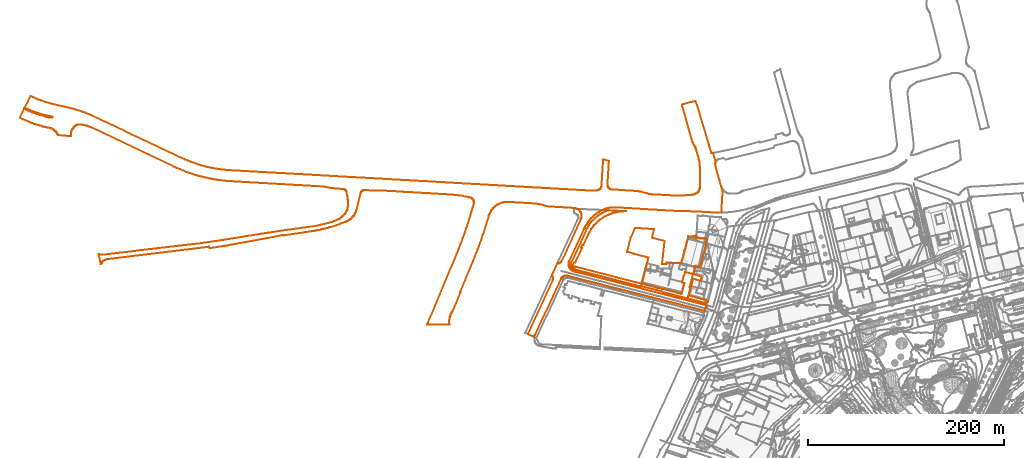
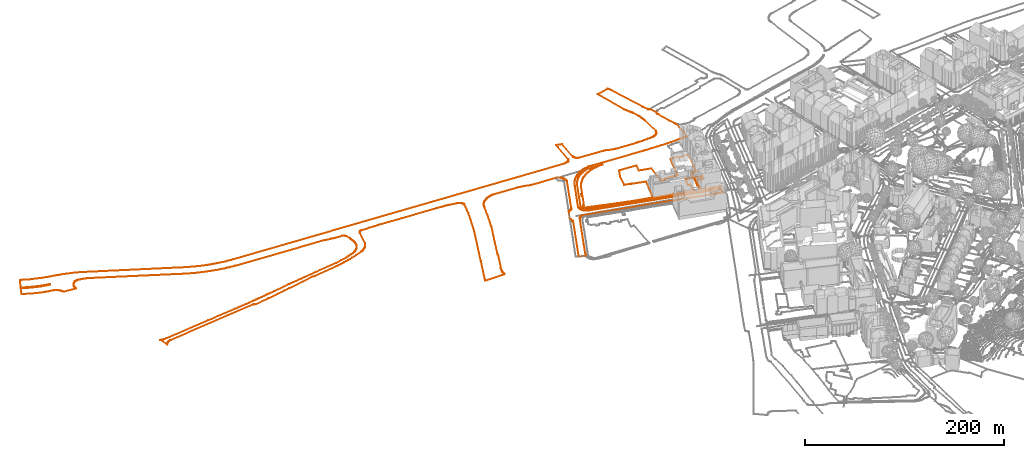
# Not in any storey, part 200 of 477: 2 civil elements, 1 geographic element.
"""IFC4 model written with IfcOpenShell, lengths in metres."""

from ifc_helpers import new_model, entity, si_unit, frame, origin_with_axes, place, context, subcontext, project, spatial, element, save


model = new_model("IFC4")

# Units and contexts
model_context = context("Model", 3, precision=1e-05, world=origin_with_axes())
body_context = subcontext(model_context, "Body", "Model", "MODEL_VIEW")
ifc_project = project(units=[si_unit("AREAUNIT", "SQUARE_METRE"), si_unit("LENGTHUNIT", "METRE")], contexts=[model_context])

# Sites
site_1_placement = place(None, origin_with_axes())
site_1 = spatial("IfcSite", under=ifc_project, at=site_1_placement, Name="Topoexport Site")
site_2_placement = place(site_1_placement, origin_with_axes())
site_2 = spatial("IfcSite", under=site_1, at=site_2_placement, Name="TPX_ROADS_OUTLINES")

# Civil elements
civil_element_1_placement = place(site_2_placement, frame((-129.9792679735, 398.5037160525, 539.2976639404), z_axis=(0.0, 0.0, 1.0), x_axis=(1.0, 0.0, 0.0)))
element("IfcCivilElement", 1, at=civil_element_1_placement, inside=site_2, Name="Roads Outline 23", ObjectType="ROAD", context=body_context, shape_type="GeometricCurveSet", body=[
    entity("IfcGeometricCurveSet", [entity("IfcIndexedPolyCurve", entity("IfcCartesianPointList3D", [[0.4560000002, 1.814, -0.0081571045], [16.3220000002, 36.0729999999, 0.1580245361], [16.9960000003, 37.45, 0.1580245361], [17.7290000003, 38.798, 0.1580245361], [18.5190000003, 40.112, 0.1580245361], [19.3640000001, 41.392, 0.1580245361], [20.264, 42.6339999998, 0.1580245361], [21.216, 43.8359999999, 0.1580245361], [22.219, 44.9959999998, 0.1580245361], [23.2710000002, 46.112, 0.1580245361], [24.3689999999, 47.182, 0.1580245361], [25.5130000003, 48.2039999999, 0.1580245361], [26.699, 49.176, 0.1580245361], [27.926, 50.0959999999, 0.1580245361], [29.1920000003, 50.963, 0.1580245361], [30.4930000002, 51.774, 0.1580245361], [31.8280000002, 52.5289999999, 0.1580245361], [33.1940000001, 53.226, 0.1580245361], [34.5890000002, 53.8629999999, 0.1580245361], [36.0100000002, 54.4409999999, 0.1580245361], [37.4550000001, 54.956, 0.1580245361], [38.9200000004, 55.409, 0.1580245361], [56.4670000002, 54.3389999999, 0.1580245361], [54.7000000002, 54.3499999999, 0.1580245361], [52.9330000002, 54.2859999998, 0.1580245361], [51.1720000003, 54.1469999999, 0.1580245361], [49.4170000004, 53.933, 0.1580245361], [47.6740000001, 53.645, 0.1580245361], [45.9440000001, 53.2829999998, 0.1580245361], [44.2310000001, 52.848, 0.1580245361], [42.5380000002, 52.3399999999, 0.1580245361], [40.8680000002, 51.7609999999, 0.1580245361], [39.2250000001, 51.111, 0.1580245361], [37.6100000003, 50.392, 0.1580245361], [36.0280000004, 49.605, 0.1580245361], [34.48, 48.7519999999, 0.1580245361], [32.9700000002, 47.8329999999, 0.1580245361], [31.5, 46.851, 0.1580245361], [30.074, 45.808, 0.1580245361], [28.7580000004, 44.7589999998, 0.1580245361], [27.4850000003, 43.6579999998, 0.1580245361], [26.2580000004, 42.507, 0.1580245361], [25.0780000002, 41.3059999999, 0.1580245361], [23.9480000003, 40.0589999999, 0.1580245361], [22.8689999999, 38.767, 0.1580245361], [21.844, 37.433, 0.1580245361], [20.8730000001, 36.058, 0.1580245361], [19.9590000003, 34.645, 0.1580245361], [19.102, 33.1969999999, 0.1580245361], [18.3050000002, 31.7139999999, 0.1580245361], [17.5690000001, 30.2009999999, 0.1580245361], [12.8080000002, 19.8959999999, 0.1146627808], [11.8260000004, 20.3369999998, 0.1138363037], [10.3800000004, 17.2589999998, 0.1123380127], [11.372, 16.814, 0.1101798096], [4.4900000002, 1.9949999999, -0.0055057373], [4.0530000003, 2.203, -0.0024588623], [3.8800000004, 2.227, -0.0021072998], [3.7060000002, 2.2109999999, -0.0023416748], [3.5410000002, 2.155, -0.0031619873], [3.392, 2.0629999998, -0.0045096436], [3.2690000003, 1.9399999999, -0.0063114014], [3.1770000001, 1.791, -0.0084940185], [1.5650000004, -1.7960000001, 0.0688849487], [1.5160000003, -1.98, 0.0642158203], [1.5300000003, -2.1700000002, 0.0567243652], [1.6040000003, -2.3460000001, 0.0497849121], [1.7000000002, -2.4620000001, 0.0452111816], [1.8230000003, -2.55, 0.0417414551], [1.963, -2.6040000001, 0.0396123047], [3.324, -2.946, 0.0219205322], [3.477, -2.9640000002, 0.0205406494], [3.6290000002, -2.943, 0.0221505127], [3.7710000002, -2.8840000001, 0.0266734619], [3.8970000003, -2.7860000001, 0.0324362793], [3.9930000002, -2.659, 0.0374437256], [4.0530000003, -2.5110000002, 0.0432791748], [4.1460000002, -2.125, 0.0584986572], [14.3480000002, -4.716, -0.1490685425], [14.6040000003, -4.7810000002, -0.1566500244], [14.5890000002, -4.8390000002, -0.1634157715], [46.4100000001, -13.0050000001, -1.0613162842], [46.398, -13.0530000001, -1.0582108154], [66.7110000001, -18.22, -0.8727605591], [71.2630000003, -19.3770000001, -0.8522108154], [72.2390000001, -19.6270000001, -0.8477705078], [88.162, -23.7110000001, -0.7752872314], [88.608, -23.8250000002, -0.7732694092], [93.0760000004, -24.8600000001, -0.7548870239], [113.199, -30.0420000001, -0.662861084], [116.048, -18.97, -0.8594396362], [113.514, -18.317, -0.8710377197], [115.1530000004, -11.9480000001, -0.9666266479], [116.8940000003, -7.746, -0.5581720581], [125.952, -10.0930000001, -0.7818460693], [125.932, -10.166, -0.7882353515], [133.5990000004, -12.22, -0.8647923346], [132.4190000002, -16.638, -0.847983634], [132.4040000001, -16.6940000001, -0.8482856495], [124.8120000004, -14.6600000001, -0.9306699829], [122.7170000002, -22.5090000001, -0.7965826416], [120.2650000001, -31.696, -0.6335322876], [140.324, -37.0490000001, -0.1245398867], [140.1700000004, -37.4880000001, -0.1121940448], [139.9500000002, -37.898, -0.120806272], [139.6690000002, -38.2690000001, -0.1700981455], [139.335, -38.5920000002, -0.208320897], [138.9540000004, -38.8600000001, -0.2353365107], [138.534, -39.0590000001, -0.2566715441], [138.088, -39.1910000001, -0.2815631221], [137.6270000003, -39.253, -0.322084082], [137.162, -39.2420000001, -0.3612637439], [136.7040000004, -39.1600000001, -0.3818549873], [119.182, -34.672, -0.5855060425], [93.841, -28.1730000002, -0.6960440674], [93.9410000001, -27.7830000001, -0.7029709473], [71.8700000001, -22.1240000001, -0.8034207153], [71.77, -22.514, -0.7964938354], [13.077, -7.466, -0.5204889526], [3.767, -5.0870000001, -0.1923723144], [3.173, -4.9010000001, -0.1706549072], [2.6060000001, -4.642, -0.1404373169], [2.077, -4.3150000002, -0.1022966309], [1.5920000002, -3.9240000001, -0.0566911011], [1.159, -3.476, -0.0187093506], [0.7860000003, -2.9780000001, 0.0194674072], [0.477, -2.4370000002, 0.0461968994], [0.2439999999, -1.855, 0.0691444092], [0.085, -1.2490000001, 0.0522252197], [0.003, -0.6270000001, 0.0297733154], [0.0, 0.0, 0.0], [0.0760000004, 0.622, -0.0123456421], [0.2280000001, 1.23, -0.016711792], [0.4560000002, 1.814, -0.0081571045]]))]),
])
civil_element_2_placement = place(site_2_placement, frame((-692.4032679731, 548.3087160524, 539.4556884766), z_axis=(0.0, 0.0, 1.0), x_axis=(1.0, 0.0, 0.0)))
element("IfcCivilElement", 2, at=civil_element_2_placement, inside=site_2, Name="Roads Outline 30", ObjectType="ROAD", context=body_context, shape_type="GeometricCurveSet", body=[
    entity("IfcGeometricCurveSet", [entity("IfcIndexedPolyCurve", entity("IfcCartesianPointList3D", [[0.0, 0.0, 0.0], [4.463, 9.162, 0.0], [6.3459999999, 8.263, 0.0], [8.2449999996, 7.398, 0.0], [10.1599999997, 6.5689999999, 0.0], [12.6209999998, 5.5560000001, 0.0], [15.1089999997, 4.6100000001, 0.0], [17.6209999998, 3.7309999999, 0.0], [20.051, 2.946, 0.0], [22.5009999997, 2.227, 0.0], [24.9699999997, 1.575, 0.0], [27.4639999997, 0.9909999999, 0.0], [29.9719999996, 0.4739999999, 0.0], [32.4939999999, 0.0260000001, 0.0], [32.6879999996, 0.0179999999, 0.0], [32.875, 0.0689999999, 0.0], [33.037, 0.175, 0.0], [33.159, 0.3259999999, 0.0], [33.2289999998, 0.507, 0.0], [33.2390000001, 0.706, 0.0], [33.1859999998, 0.899, 0.0], [33.0749999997, 1.064, 0.0], [32.9179999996, 1.1869999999, 0.0], [30.3559999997, 1.662, 0.0], [27.8059999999, 2.2009999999, 0.0], [25.2709999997, 2.804, 0.0], [22.7989999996, 3.4480000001, 0.0], [20.3449999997, 4.1599999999, 0.0], [17.912, 4.9399999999, 0.0], [15.477, 5.7960000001, 0.0], [13.068, 6.719, 0.0], [10.6850000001, 7.71, 0.0], [8.7819999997, 8.5430000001, 0.0], [6.895, 9.412, 0.0], [5.0249999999, 10.317, 0.0], [10.8339999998, 22.2409999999, 0.0], [10.8729999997, 22.321, 0.0], [13.486, 21.0549999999, 0.0], [16.1299999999, 19.858, 0.0], [18.8049999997, 18.7290000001, 0.0], [21.5079999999, 17.6699999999, 0.0], [31.3049999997, 14.6229999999, 0.0], [39.0439999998, 12.665, 0.0], [46.9159999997, 10.993, 0.0], [49.2449999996, 10.4879999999, 0.0], [51.5639999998, 9.939, 0.0], [54.0600000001, 9.297, 0.0], [56.5419999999, 8.6040000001, 0.0], [64.5529999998, 5.9609999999, 0.0], [67.3399999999, 4.8999999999, 0.0], [70.102, 3.7760000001, 0.0], [72.838, 2.5900000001, 0.0], [114.2479999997, -17.0020000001, 0.0], [165.6339999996, -41.301, 0.0], [168.5919999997, -42.5730000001, 0.0], [171.5719999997, -43.791, 0.0], [174.574, -44.9550000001, 0.0], [177.2489999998, -45.9399999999, 0.0], [179.9399999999, -46.8810000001, 0.0], [182.645, -47.7779999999, 0.0], [185.3649999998, -48.632, 0.0], [188.2489999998, -49.4210000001, 0.0], [191.1519999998, -50.1359999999, 0.0], [194.0719999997, -50.777, 0.0], [197.0079999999, -51.344, 0.0], [199.9569999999, -51.835, 0.0], [202.9719999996, -52.3090000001, 0.0], [205.997, -52.7209999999, 0.0], [209.0289999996, -53.071, 0.0], [212.0669999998, -53.3600000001, 0.0], [215.111, -53.5860000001, 0.0], [363.3199999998, -61.9010000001, 0.0], [399.7749999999, -63.946, 0.0], [585.9369999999, -74.5449999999, 0.0], [586.8539999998, -74.5060000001, 0.0], [587.7679999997, -74.419, 0.0], [588.852, -74.254, 0.0], [589.9239999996, -74.023, 0.0], [590.4379999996, -73.8430000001, 0.0], [590.9309999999, -73.611, 0.0], [591.398, -73.3300000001, 0.0], [591.8329999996, -73.003, 0.0], [592.233, -72.632, 0.0], [592.5919999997, -72.223, 0.0], [592.9389999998, -71.727, 0.0], [593.2279999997, -71.1950000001, 0.0], [593.4539999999, -70.6329999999, 0.0], [593.6149999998, -70.0490000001, 0.0], [593.7089999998, -69.4510000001, 0.0], [595.2569999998, -46.2050000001, 0.0], [595.577, -42.449, 0.0], [601.3219999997, -44.1880000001, 0.0], [599.909, -67.764, 0.0], [599.8999999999, -68.334, 0.0], [599.9559999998, -68.902, 0.0], [600.0759999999, -69.459, 0.0], [600.2579999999, -70.0, 0.0], [600.5, -70.5160000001, 0.0], [600.7989999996, -71.0020000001, 0.0], [601.1869999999, -71.4909999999, 0.0], [601.6319999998, -71.9280000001, 0.0], [602.128, -72.3060000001, 0.0], [602.6669999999, -72.621, 0.0], [603.2409999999, -72.8659999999, 0.0], [603.841, -73.0379999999, 0.0], [604.4569999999, -73.1340000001, 0.0], [630.537, -74.831, 0.0], [631.3289999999, -74.942, 0.0], [632.1179999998, -75.071, 0.0], [633.2239999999, -75.2860000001, 0.0], [634.3229999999, -75.537, 0.0], [639.6179999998, -77.0789999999, 0.0], [640.9029999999, -77.436, 0.0], [642.2059999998, -77.7239999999, 0.0], [643.2589999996, -77.9040000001, 0.0], [644.318, -78.04, 0.0], [645.3819999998, -78.1310000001, 0.0], [667.1739999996, -79.361, 0.0], [669.3859999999, -79.4080000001, 0.0], [671.5979999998, -79.4099999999, 0.0], [673.9849999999, -79.362, 0.0], [676.3699999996, -79.26, 0.0], [678.6569999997, -79.156, 0.0], [680.9419999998, -79.0260000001, 0.0], [683.486, -78.8530000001, 0.0], [686.0279999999, -78.6470000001, 0.0], [686.7039999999, -78.561, 0.0], [687.3729999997, -78.429, 0.0], [688.0319999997, -78.2509999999, 0.0], [688.676, -78.0279999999, 0.0], [689.3479999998, -77.74, 0.0], [689.9959999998, -77.4040000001, 0.0], [690.6179999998, -77.02, 0.0], [691.1859999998, -76.629, 0.0], [691.7179999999, -76.1910000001, 0.0084788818], [692.2109999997, -75.709, 0.0389904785], [692.6609999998, -75.186, 0.0668457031], [692.9749999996, -74.7579999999, 0.0862982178], [693.2609999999, -74.311, 0.1040161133], [693.602, -73.6699999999, 0.1251400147], [693.8839999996, -73.0, 0.1425928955], [694.1039999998, -72.308, 0.1562086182], [694.2609999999, -71.5989999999, 0.165925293], [694.3529999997, -70.878, 0.1716191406], [694.1949999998, -50.3800000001, 0.1618405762], [694.0869999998, -48.5160000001, 0.1551564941], [693.9069999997, -46.6580000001, 0.1440163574], [693.6539999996, -44.8090000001, 0.1283582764], [693.4029999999, -43.3559999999, 0.1128131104], [693.1069999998, -41.9099999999, 0.094475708], [692.767, -40.4750000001, 0.0734124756], [692.3829999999, -39.051, 0.0496354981], [690.4559999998, -32.405, 0.0], [690.25, -31.7790000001, 0.0], [690.0119999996, -31.165, 0.0], [689.682, -30.443, 0.0], [689.307, -29.7439999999, 0.0], [688.6169999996, -28.524, 0.0], [687.9749999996, -27.2790000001, 0.0], [687.3819999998, -26.0090000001, 0.0], [686.773, -24.5530000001, 0.0], [686.2289999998, -23.071, 0.0], [685.7519999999, -21.567, 0.0], [675.8279999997, 13.7009999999, 0.0], [689.4849999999, 17.1000000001, 0.0], [689.7799999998, 16.3969999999, 0.0], [690.111, 15.7109999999, 0.0], [691.4469999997, 13.0149999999, 0.0], [703.5129999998, -27.8970000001, 0.7798701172], [704.0129999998, -29.257, 0.8151484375], [705.818, -35.4739999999, 0.9425031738], [705.9189999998, -35.7120000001, 0.9496293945], [706.0829999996, -35.9129999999, 0.9612006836], [706.2959999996, -36.0600000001, 0.976229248], [706.5409999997, -36.142, 0.993515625], [706.7999999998, -36.1529999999, 1.0117897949], [707.8599999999, -35.9350000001, 1.086579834], [710.4589999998, -44.963, 1.2698955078], [710.2169999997, -45.524, 1.2528208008], [710.0409999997, -46.1089999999, 1.240402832], [709.932, -46.71, 1.2327121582], [709.892, -47.3189999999, 1.2298898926], [709.9209999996, -47.929, 1.2319360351], [710.02, -48.5320000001, 1.2389211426], [710.318, -49.743, 1.2599470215], [714.1869999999, -63.781, 1.531710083], [716.1889999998, -70.8049999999, 1.6619589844], [716.2279999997, -70.919, 1.664439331], [716.4789999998, -71.5530000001, 1.6804025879], [716.773, -72.169, 1.6991123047], [717.1089999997, -72.763, 1.7205019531], [717.4849999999, -73.3319999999, 1.7444379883], [716.0619999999, -96.8260000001, 1.653881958], [713.7209999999, -96.8419999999, 1.4997692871], [711.3799999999, -96.807, 1.3348781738], [709.0409999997, -96.7209999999, 1.1698791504], [706.7039999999, -96.584, 1.0050163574], [697.7519999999, -96.0760000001, 0.3857163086], [692.4759999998, -95.8, 0.0553912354], [687.1969999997, -95.5689999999, 0.0], [681.7249999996, -95.3729999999, 0.0], [676.2519999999, -95.2250000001, 0.0], [673.7089999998, -95.183, 0.0], [671.1659999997, -95.1129999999, 0.0], [668.8669999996, -95.0249999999, 0.0], [666.5689999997, -94.916, 0.0], [640.0799999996, -93.3829999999, 0.0], [608.79, -91.443, 0.0], [607.273, -91.3929999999, 0.0], [605.7549999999, -91.4199999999, 0.0], [604.2399999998, -91.524, 0.0], [602.7319999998, -91.7039999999, 0.0], [601.236, -91.9610000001, 0.0], [599.8689999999, -92.2620000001, 0.0], [598.5189999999, -92.628, 0.0], [597.1869999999, -93.058, 0.0], [595.8769999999, -93.55, 0.0], [594.5919999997, -94.105, 0.0], [593.3959999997, -94.689, 0.0], [592.227, -95.3260000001, 0.0], [591.088, -96.0149999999, 0.0], [589.9819999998, -96.7550000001, 0.0], [588.5589999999, -97.7779999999, 0.0], [587.1809999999, -98.861, 0.0], [585.852, -100.003, 0.0], [584.574, -101.202, 0.0], [583.3489999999, -102.4550000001, 0.0], [582.179, -103.76, 0.0], [581.0669999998, -105.1140000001, 0.0], [579.9919999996, -106.5460000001, 0.0], [578.9819999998, -108.024, 0.0], [578.0389999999, -109.5449999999, 0.0], [577.1639999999, -111.1070000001, 0.0], [576.3589999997, -112.706, 0.0], [575.6259999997, -114.3389999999, 0.0], [560.8539999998, -146.203, -0.1400167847], [560.5989999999, -146.909, -0.1503320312], [560.409, -147.6340000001, -0.1609521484], [560.284, -148.3740000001, -0.1717919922], [560.2259999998, -149.122, -0.1709621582], [560.23, -149.787, -0.1588792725], [560.2859999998, -150.449, -0.1274439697], [560.395, -151.105, -0.1042460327], [560.5559999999, -151.75, -0.0924287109], [560.7679999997, -152.3800000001, -0.1172687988], [561.068, -152.97, -0.1528925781], [561.4129999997, -153.5349999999, -0.1962055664], [561.8019999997, -154.0719999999, -0.2547225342], [562.23, -154.5760000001, -0.3135081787], [562.6969999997, -155.0460000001, -0.3683779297], [563.2659999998, -155.531, -0.4250066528], [563.8759999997, -155.9650000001, -0.4884540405], [564.5209999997, -156.3430000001, -0.5473550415], [565.1969999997, -156.662, -0.5965527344], [565.8989999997, -156.9210000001, -0.6314096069], [566.6209999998, -157.118, -0.6579223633], [567.3569999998, -157.25, -0.6756872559], [700.6839999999, -191.4099999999, -0.4767361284], [699.2259999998, -197.1780000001, -0.6310372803], [559.3129999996, -161.388, -1.0843353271], [558.781, -161.2490000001, -1.0695648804], [558.2369999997, -161.165, -1.060638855], [557.6869999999, -161.1370000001, -1.0576635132], [557.1379999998, -161.165, -1.060638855], [556.5209999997, -161.2649999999, -1.0712650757], [555.9189999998, -161.4369999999, -1.0895421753], [555.3419999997, -161.6769999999, -1.1155640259], [554.7959999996, -161.983, -1.1521517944], [554.3629999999, -162.247, -1.1837177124], [553.9559999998, -162.548, -1.2197076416], [553.5869999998, -162.8729999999, -1.2152648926], [553.247, -163.2280000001, -1.1922973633], [552.9379999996, -163.6100000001, -1.1675830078], [552.7849999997, -163.8289999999, -1.1479701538], [552.6429999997, -164.054, -1.127], [552.4869999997, -164.338, -1.1005310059], [552.3499999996, -164.632, -1.0731300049], [526.2769999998, -220.8540000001, -1.4231005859], [525.9589999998, -221.6340000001, -1.4709460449], [525.7049999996, -222.4380000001, -1.4901855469], [525.517, -223.2590000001, -1.4717375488], [525.3969999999, -224.0930000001, -1.5352838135], [518.6069999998, -220.865, -1.4237753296], [543.827, -166.3090000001, -1.0576488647], [543.9129999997, -166.0490000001, -1.0594103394], [543.9919999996, -165.787, -1.0611853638], [544.1379999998, -165.2169999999, -1.0665631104], [544.2039999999, -164.571, -1.0788152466], [544.2139999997, -163.922, -1.1393024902], [544.1689999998, -163.274, -1.1893212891], [544.0699999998, -162.6329999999, -1.2298709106], [543.929, -162.0460000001, -1.1596845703], [543.7409999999, -161.4709999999, -1.0931550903], [543.5089999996, -160.9140000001, -1.033967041], [543.233, -160.3759999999, -0.9817072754], [548.5529999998, -148.8959999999, -0.1731553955], [548.5699999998, -148.8600000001, -0.1735047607], [549.2439999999, -148.7450000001, -0.1746207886], [549.9069999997, -148.578, -0.1747802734], [550.5549999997, -148.3589999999, -0.1715722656], [551.1509999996, -148.105, -0.1678515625], [551.7259999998, -147.808, -0.1635009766], [552.0409999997, -147.578, -0.1601318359], [552.3329999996, -147.321, -0.1563671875], [552.6009999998, -147.0379999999, -0.1522216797], [552.8629999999, -146.7, -0.1472705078], [553.0899999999, -146.338, -0.141986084], [553.2779999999, -145.9539999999, -0.1363845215], [572.8199999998, -103.5870000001, 0.0], [573.0899999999, -102.8589999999, 0.0], [573.2909999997, -102.1100000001, 0.0], [573.4209999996, -101.345, 0.0], [573.4789999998, -100.571, 0.0], [573.4639999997, -99.7949999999, 0.0], [573.3769999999, -99.024, 0.0], [573.2179999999, -98.264, 0.0], [572.9890000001, -97.523, 0.0], [572.6909999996, -96.8060000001, 0.0], [572.3279999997, -96.1200000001, 0.0], [571.9099999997, -95.4820000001, 0.0], [571.4350000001, -94.885, 0.0], [570.9069999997, -94.334, 0.0], [570.3309999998, -93.834, 0.0], [569.7119999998, -93.389, 0.0], [569.054, -93.0020000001, 0.0], [568.378, -92.6840000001, 0.0], [567.676, -92.4280000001, 0.0], [566.9539999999, -92.236, 0.0], [566.2179999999, -92.1100000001, 0.0], [540.1809999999, -90.5290000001, 0.0], [537.5600000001, -90.28, 0.0], [535.9129999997, -89.7320000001, 0.0], [534.2489999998, -89.237, 0.0], [532.5699999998, -88.794, 0.0], [530.878, -88.405, 0.0], [529.1699999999, -88.0689999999, 0.0], [527.4529999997, -87.787, 0.0], [525.727, -87.5590000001, 0.0], [523.9949999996, -87.3859999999, 0.0], [499.1359999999, -85.9299999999, 0.0], [497.96, -85.898, 0.0], [496.7849999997, -85.9350000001, 0.0], [495.6129999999, -86.0419999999, 0.0], [494.4499999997, -86.216, 0.0], [493.2989999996, -86.4580000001, 0.0], [492.1639999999, -86.7679999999, 0.0], [491.0489999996, -87.1429999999, 0.0], [489.9589999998, -87.584, 0.0], [488.8959999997, -88.0870000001, 0.0], [487.8640000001, -88.652, 0.0], [486.8669999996, -89.2760000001, 0.0], [485.8999999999, -89.9639999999, 0.0], [484.9759999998, -90.7069999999, 0.0], [484.0969999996, -91.504, 0.0], [483.267, -92.352, 0.0], [482.5039999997, -93.2280000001, 0.0], [481.7939999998, -94.1459999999, 0.0], [481.1369999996, -95.1030000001, 0.0], [480.537, -96.0970000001, 0.0], [479.9949999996, -97.1240000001, 0.0], [479.5129999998, -98.1810000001, 0.0], [479.094, -99.263, 0.0], [478.7369999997, -100.368, 0.0], [474.3619999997, -114.5959999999, 0.0], [472.6069999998, -119.8800000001, 0.0], [470.7759999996, -125.138, -0.0483398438], [468.8699999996, -130.3689999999, -0.0436144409], [467.361, -134.348, -0.0561425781], [465.8089999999, -138.3100000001, -0.0813530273], [464.2139999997, -142.2550000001, -0.1064932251], [462.577, -146.183, -0.1397250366], [449.4199999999, -177.7609999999, -0.8579227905], [449.3929999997, -177.943, -0.8546902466], [449.4399999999, -178.121, -0.8515287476], [449.5529999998, -178.2649999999, -0.8489711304], [449.7149999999, -178.3530000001, -0.8474081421], [441.7199999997, -197.5379999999, -0.8521240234], [441.2509999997, -198.2649999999, -0.868414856], [440.8159999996, -199.0120000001, -0.885147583], [440.415, -199.7790000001, -0.9016570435], [439.9329999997, -200.835, -0.9193701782], [439.5129999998, -201.9169999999, -0.9345606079], [439.1569999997, -203.0220000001, -0.9579946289], [438.8659999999, -204.1459999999, -0.9948977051], [438.642, -205.2849999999, -1.0326951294], [438.4499999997, -206.2209999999, -1.054980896], [438.3229999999, -207.1669999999, -1.0791108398], [438.2609999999, -208.121, -1.1075258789], [438.2649999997, -209.0760000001, -1.1326290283], [438.3339999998, -210.0279999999, -1.1523883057], [438.469, -210.9739999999, -1.1696835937], [415.7709999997, -211.054, -1.1710800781], [416.5449999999, -209.2, -1.1353763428], [428.7739999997, -179.9620000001, -0.8188500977], [445.889, -138.9709999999, -0.0855691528], [447.9890000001, -133.7879999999, -0.0525878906], [450.0219999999, -128.578, -0.0492944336], [451.9869999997, -123.3430000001, -0.030378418], [453.8849999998, -118.0819999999, 0.0], [455.7139999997, -112.798, 0.0], [457.4749999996, -107.49, 0.0], [459.1669999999, -102.1599999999, 0.0], [460.79, -96.808, 0.0], [462.344, -91.436, 0.0], [463.4339999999, -87.4650000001, 0.0], [463.5209999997, -86.959, 0.0], [463.5559999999, -86.4469999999, 0.0], [463.5419999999, -85.956, 0.0], [463.48, -85.4680000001, 0.0], [463.372, -84.9890000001, 0.0], [463.2179999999, -84.5220000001, 0.0], [462.98, -83.9920000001, 0.0], [462.6839999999, -83.4920000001, 0.0], [462.3339999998, -83.0290000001, 0.0], [461.9329999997, -82.6089999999, 0.0], [461.4869999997, -82.237, 0.0], [461.0019999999, -81.9169999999, 0.0], [460.4839999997, -81.655, 0.0], [459.9389999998, -81.453, 0.0], [459.3569999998, -81.24, 0.0], [458.7560000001, -81.0830000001, 0.0], [458.1439999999, -80.9850000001, 0.0], [450.7379999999, -79.642, 0.0], [448.361, -79.3, 0.0], [445.98, -78.9950000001, 0.0], [443.594, -78.727, 0.0], [441.1140000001, -78.4879999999, 0.0], [438.6310000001, -78.2879999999, 0.0], [436.145, -78.1270000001, 0.0], [397.3539999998, -75.8530000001, 0.0], [392.3989999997, -75.5719999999, 0.0], [371.7769999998, -74.3929999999, 0.0], [366.3989999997, -74.2679999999, 0.0], [361.02, -74.1459999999, 0.0], [352.0239999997, -73.942, 0.0], [351.477, -73.9310000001, 0.0], [350.9339999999, -73.9990000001, 0.0], [350.406, -74.1440000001, 0.0], [349.9039999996, -74.3629999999, 0.0], [349.4389999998, -74.6510000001, 0.0], [349.048, -74.976, 0.0], [348.7029999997, -75.351, 0.0], [348.412, -75.7679999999, 0.0], [348.1779999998, -76.22, 0.0], [348.0069999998, -76.699, 0.0], [347.798, -77.531, 0.0], [343.4469999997, -94.855, 0.0], [343.0819999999, -95.8570000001, 0.0], [342.6569999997, -96.835, 0.0], [342.1749999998, -97.7860000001, 0.0], [341.6369999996, -98.7069999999, 0.0], [341.0449999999, -99.594, 0.0], [340.4019999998, -100.4439999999, 0.0], [339.7399999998, -101.206, 0.0], [339.0389999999, -101.933, 0.0], [338.3019999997, -102.622, 0.0], [337.5289999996, -103.2720000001, 0.0], [336.7239999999, -103.8810000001, 0.0], [335.8689999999, -104.46, 0.0], [334.9839999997, -104.993, 0.0], [334.071, -105.477, 0.0], [333.1349999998, -105.912, 0.0], [332.176, -106.297, 0.0], [328.6779999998, -107.6200000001, 0.0], [325.1579999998, -108.8829999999, 0.0], [322.1709999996, -109.9010000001, 0.0], [319.1689999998, -110.8759999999, 0.0], [316.318, -111.7679999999, 0.0], [313.4579999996, -112.628, 0.0], [311.0149999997, -113.2479999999, 0.0], [308.5619999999, -113.8289999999, 0.0], [306.1169999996, -114.368, 0.0], [303.6639999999, -114.8689999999, 0.0], [301.0789999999, -115.3360000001, 0.0], [298.4849999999, -115.7479999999, 0.0], [270.7549999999, -119.7990000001, 0.0], [268.6850000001, -120.101, 0.0], [268.5639999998, -119.541, 0.0], [256.1159999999, -122.172, -0.0172275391], [238.3929999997, -125.416, -0.0502741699], [231.3459999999, -126.7050000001, -0.0553139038], [211.827, -130.2779999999, -0.0435644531], [210.2419999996, -130.568, -0.0437237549], [209.841, -130.629, -0.0437572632], [195.1779999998, -132.851, -0.0470244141], [193.4839999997, -133.108, -0.0485302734], [193.0619999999, -131.666, -0.0448271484], [89.8879999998, -144.2390000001, -0.1204975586], [89.0389999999, -144.4299999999, -0.1208706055], [88.2039999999, -144.676, -0.1216757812], [87.5279999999, -144.892, -0.1239433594], [86.875, -145.1680000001, -0.1268408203], [86.25, -145.5020000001, -0.130347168], [85.6999999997, -145.8840000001, -0.1353634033], [85.1749999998, -146.298, -0.1414025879], [84.676, -146.7450000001, -0.1479296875], [84.1939999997, -147.2250000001, -0.1549609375], [83.7459999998, -147.736, -0.1624462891], [83.3339999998, -148.2779999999, -0.1703857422], [82.9739999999, -148.827, -0.1738250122], [82.6519999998, -149.398, -0.1682836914], [80.4199999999, -138.878, -0.0849731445], [81.017, -139.1880000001, -0.0869598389], [81.6409999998, -139.4410000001, -0.0885812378], [82.2849999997, -139.635, -0.0898245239], [82.9439999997, -139.7679999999, -0.0906689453], [83.6140000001, -139.8389999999, -0.0911196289], [84.2859999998, -139.8470000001, -0.0911704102], [84.9569999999, -139.7919999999, -0.0908212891], [87.5499999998, -139.48, -0.0888311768], [139.1869999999, -133.2790000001, -0.0495322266], [172.8529999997, -129.416, -0.0444865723], [177.4339999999, -128.895, -0.047475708], [182.0099999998, -128.3289999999, -0.0507230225], [185.7489999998, -127.834, -0.0535629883], [189.4839999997, -127.3100000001, -0.0549077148], [196.1159999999, -126.3740000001, -0.0544243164], [199.4359999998, -125.8829999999, -0.0526861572], [202.7549999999, -125.3810000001, -0.0500306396], [205.966, -124.8829999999, -0.0465655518], [209.176, -124.3740000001, -0.0419121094], [212.4579999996, -123.852, -0.036081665], [215.7390000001, -123.3260000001, -0.0301875], [222.0859999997, -122.3149999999, -0.0188334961], [240.9589999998, -119.2849999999, 0.0], [243.977, -118.8030000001, 0.0], [246.9989999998, -118.352, 0.0], [250.327, -117.861, 0.0], [253.6569999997, -117.3840000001, 0.0], [257.2599999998, -116.8019999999, 0.0], [260.8559999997, -116.179, 0.0], [260.9699999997, -116.162, 0.0], [274.818, -114.1429999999, 0.0], [300.8659999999, -110.6170000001, 0.0], [307.497, -109.2169999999, 0.0], [314.642, -107.406, 0.0], [316.6089999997, -106.8300000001, 0.0], [318.5669999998, -106.223, 0.0], [320.4909999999, -105.5530000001, 0.0], [322.3959999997, -104.828, 0.0], [324.1739999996, -104.0519999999, 0.0], [325.9199999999, -103.206, 0.0], [326.929, -102.639, 0.0], [327.8969999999, -102.0050000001, 0.0], [328.8199999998, -101.307, 0.0], [329.6939999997, -100.548, 0.0], [330.514, -99.7320000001, 0.0], [331.23, -98.919, 0.0], [331.892, -98.0619999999, 0.0], [332.4989999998, -97.165, 0.0], [333.0469999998, -96.2309999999, 0.0], [333.5809999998, -95.175, 0.0], [334.0439999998, -94.085, 0.0], [334.432, -92.9669999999, 0.0], [334.7449999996, -91.825, 0.0], [334.9499999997, -90.8100000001, 0.0], [335.094, -89.784, 0.0], [335.1749999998, -88.7520000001, 0.0], [335.1939999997, -87.7169999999, 0.0], [335.1499999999, -86.682, 0.0], [335.0119999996, -85.2679999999, 0.0], [334.8539999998, -83.8559999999, 0.0], [334.6369999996, -82.1740000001, 0.0], [334.3909999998, -80.496, 0.0], [334.3469999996, -80.281, 0.0], [333.3839999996, -75.531, 0.0], [333.1769999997, -75.014, 0.0], [332.9009999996, -74.531, 0.0], [332.5609999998, -74.0900000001, 0.0], [332.1639999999, -73.7, 0.0], [331.7919999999, -73.4169999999, 0.0], [331.3909999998, -73.1799999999, 0.0], [330.9649999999, -72.9890000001, 0.0], [330.5189999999, -72.8489999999, 0.0], [330.0609999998, -72.7609999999, 0.0], [321.594, -72.0660000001, 0.0], [320.3539999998, -71.9480000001, 0.0], [319.1159999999, -71.814, 0.0], [317.7399999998, -71.6459999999, 0.0], [316.3669999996, -71.4569999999, 0.0], [312.4409999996, -70.7790000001, 0.0], [310.6149999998, -70.459, 0.0], [308.7889999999, -70.135, 0.0], [213.6969999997, -64.642, 0.0], [210.6999999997, -64.389, 0.0], [207.7079999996, -64.0819999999, 0.0], [204.7219999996, -63.7239999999, 0.0], [201.8149999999, -63.331, 0.0], [198.9159999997, -62.882, 0.0], [196.0259999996, -62.3770000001, 0.0], [192.6519999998, -61.7010000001, 0.0], [189.2929999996, -60.956, 0.0], [185.9499999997, -60.142, 0.0], [182.625, -59.2590000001, 0.0], [179.5919999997, -58.3929999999, 0.0], [176.5779999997, -57.463, 0.0], [173.2859999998, -56.3589999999, 0.0], [170.0189999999, -55.1850000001, 0.0], [166.7769999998, -53.942, 0.0], [163.46, -52.5860000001, 0.0], [160.1739999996, -51.1570000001, 0.0], [156.9199999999, -49.656, 0.0], [73.3149999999, -9.878, 0.0], [72.1159999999, -9.3800000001, 0.0], [70.9009999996, -8.9199999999, 0.0], [69.6719999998, -8.5009999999, 0.0], [68.5359999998, -8.1499999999, 0.0], [67.389, -7.834, 0.0], [66.2339999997, -7.5519999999, 0.0], [64.9909999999, -7.29, 0.0], [63.7399999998, -7.068, 0.0], [62.483, -6.8859999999, 0.0], [61.7349999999, -6.807, 0.0], [60.983, -6.7919999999, 0.0], [60.3469999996, -6.8300000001, 0.0], [59.716, -6.9140000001, 0.0], [59.0549999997, -7.075, 0.0], [58.4099999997, -7.2879999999, 0.0], [57.7829999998, -7.5530000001, 0.0], [57.1809999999, -7.8670000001, 0.0], [56.605, -8.2290000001, 0.0], [55.906, -8.7890000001, 0.0], [55.2569999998, -9.405, 0.0], [54.662, -10.074, 0.0], [54.1409999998, -10.767, 0.0], [53.679, -11.5009999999, 0.0], [53.2779999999, -12.27, 0.0], [52.9419999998, -13.0689999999, 0.0], [52.6719999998, -13.8929999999, 0.0], [52.46, -14.689, 0.0], [52.3029999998, -15.4979999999, 0.0], [52.2029999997, -16.3160000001, 0.0], [52.1599999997, -17.138, 0.0], [52.1739999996, -17.9620000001, 0.0], [52.2459999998, -18.7830000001, 0.0], [38.8109999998, -17.665, 0.0], [38.6129999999, -17.129, 0.0], [38.3899999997, -16.6030000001, 0.0], [38.1799999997, -16.1629999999, 0.0], [37.9509999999, -15.733, 0.0], [37.6029999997, -15.142, 0.0], [37.2169999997, -14.575, 0.0], [36.7949999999, -14.0349999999, 0.0], [36.2179999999, -13.4180000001, 0.0], [35.5989999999, -12.845, 0.0], [34.9399999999, -12.317, 0.0], [34.2449999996, -11.8370000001, 0.0], [33.4159999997, -11.355, 0.0], [32.5499999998, -10.943, 0.0], [31.6529999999, -10.602, 0.0], [30.7319999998, -10.335, 0.0], [29.182, -10.0619999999, 0.0], [27.6409999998, -9.7409999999, 0.0], [25.423, -9.2490000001, 0.0], [23.2149999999, -8.7139999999, 0.0], [21.0179999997, -8.1370000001, 0.0], [18.9339999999, -7.544, 0.0], [16.8599999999, -6.9140000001, 0.0], [14.7989999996, -6.246, 0.0], [12.7629999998, -5.52, 0.0], [10.7429999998, -4.7479999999, 0.0], [8.7419999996, -3.9310000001, 0.0], [5.807, -2.6680000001, 0.0], [2.892, -1.358, 0.0], [0.0, 0.0, 0.0]]))]),
])

# Site
site_3_placement = place(site_1_placement, origin_with_axes())
site_3 = spatial("IfcSite", under=site_1, at=site_3_placement, Name="TPX_CADASTRES")

# Geographic element
geographic_element_placement = place(site_3_placement, frame((-72.5632679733, 411.4347160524, 539.3834506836), z_axis=(0.0, 0.0, 1.0), x_axis=(1.0, 0.0, 0.0)))
element("IfcGeographicElement", 3, at=geographic_element_placement, inside=site_3, Name="Cadastre 111", PredefinedType="NOTDEFINED", context=body_context, shape_type="GeometricCurveSet", body=[
    entity("IfcGeometricCurveSet", [entity("IfcIndexedPolyCurve", entity("IfcCartesianPointList3D", [[0.0, 0.0, 0.0], [0.0499999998, 0.1910000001, 0.0012124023], [3.838, 14.834, 0.0564926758], [8.1170000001, 24.3860000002, 0.072237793], [11.6069999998, 24.176, 0.072237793], [27.628, 23.1770000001, 0.072237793], [25.389, 14.3959999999, 0.0515737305], [38.3289999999, 11.1060000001, 0.0199587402], [35.7220000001, -12.3389999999, -0.0978412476], [40.1570000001, -12.638, -0.0949395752], [40.3819999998, -10.888, -0.0905893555], [55.5320000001, -11.6669999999, -0.1020004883], [62.699, 15.8290000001, 0.0676669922], [70.8190000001, 15.9300000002, 0.0688012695], [70.6889999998, 13.99, 0.0470141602], [79.4700000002, 13.51, 0.5203061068], [81.5099999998, 12.95, 0.6403516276], [80.3500000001, 8.709, 0.5209784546], [80.9100000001, 8.5590000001, 0.5539829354], [80.8100000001, 8.189, 0.5436359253], [74.4729999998, -15.7659999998, -0.0618365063], [74.3829999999, -16.0559999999, -0.0952117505], [69.4929999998, -14.736, -0.0166276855], [66.2340000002, -27.219, -1.0511273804], [63.9449999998, -36.0109999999, -0.8722427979], [64.8149999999, -36.1909999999, -0.8690567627], [61.7659999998, -47.6029999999, -0.6712927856], [36.4249999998, -41.1040000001, -0.7818308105], [36.5249999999, -40.7139999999, -0.7887576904], [14.4539999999, -35.0549999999, -0.8892074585], [15.094, -32.6239999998, -0.9323850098], [19.102, -17.281, -0.1921657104], [18.952, -17.2409999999, -0.1875001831], [20.4610000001, -11.3299999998, -0.0970639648], [21.861, -5.8689999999, -0.0377994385], [6.77, -2.0289999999, -0.0128955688], [6.8500000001, -1.7389999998, -0.0110385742], [0.0, 0.0, 0.0]]))]),
])

save(model, "model.ifc")
